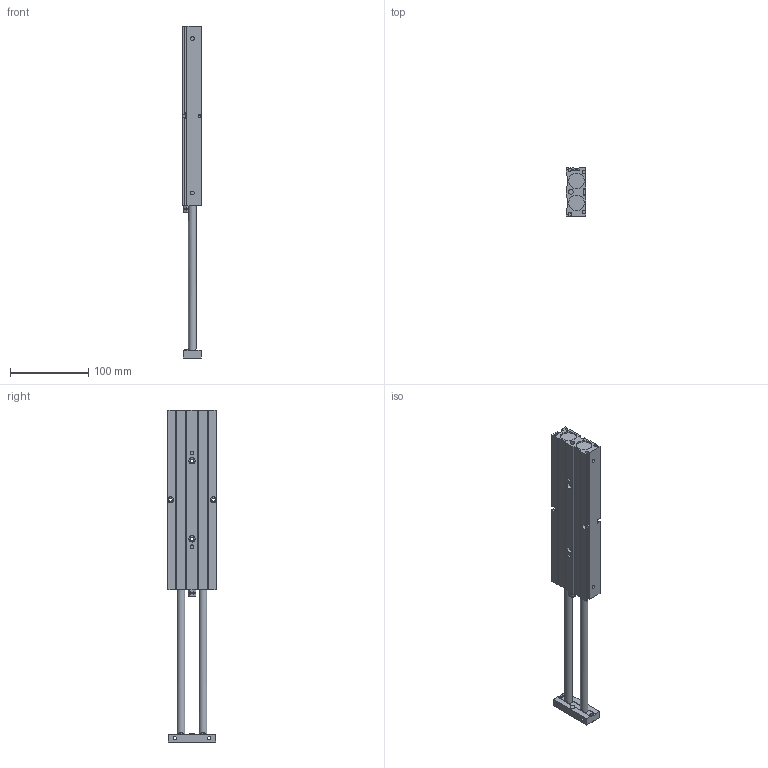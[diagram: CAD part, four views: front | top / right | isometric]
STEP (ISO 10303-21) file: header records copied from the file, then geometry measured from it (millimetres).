
FILE_DESCRIPTION((''),'2;1');
FILE_NAME('I:\3D電子目錄\氣缸\TD\TD20\TD20\TD20x175.stp','2007-08-06T09:47:55',('Administrator'),(''),'Autodesk Inventor 2008','Autodesk Inventor 2008','');
FILE_SCHEMA(('AUTOMOTIVE_DESIGN { 1 0 10303 214 1 1 1 1 }'));
Length unit declared in the file: millimetre
Products named in the file (1): TD20X175
Bounding box: 25 x 62 x 425 mm (x, y, z)
Volume: 359946 mm3; surface area: 76467.7 mm2
Topology: 1 solids, 3 shells, 197 faces, 503 edges, 329 vertices
Faces by surface type: plane 136, cylinder 48, cone 7, bspline 4, torus 2
Full cylindrical faces by diameter (mm): 4 x4, 4.5 x4, 5 x4, 6 x2, 7 x2, 8 x6, 9 x2, 10 x2, 20 x4
Entity records: 6108 total; most frequent: CARTESIAN_POINT 1453, DIRECTION 927, ORIENTED_EDGE 916, EDGE_CURVE 458, VERTEX_POINT 323, AXIS2_PLACEMENT_3D 310, VECTOR 307, LINE 307
